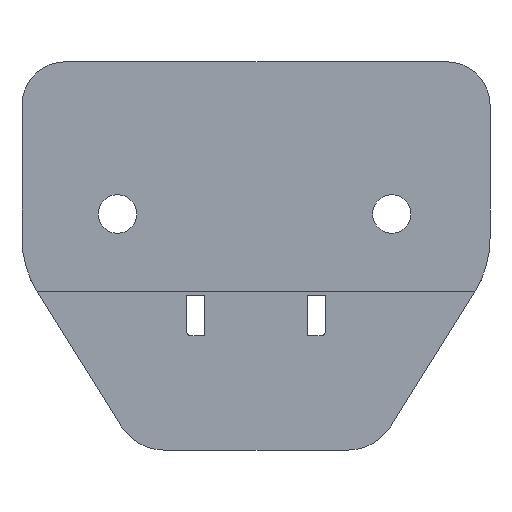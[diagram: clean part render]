
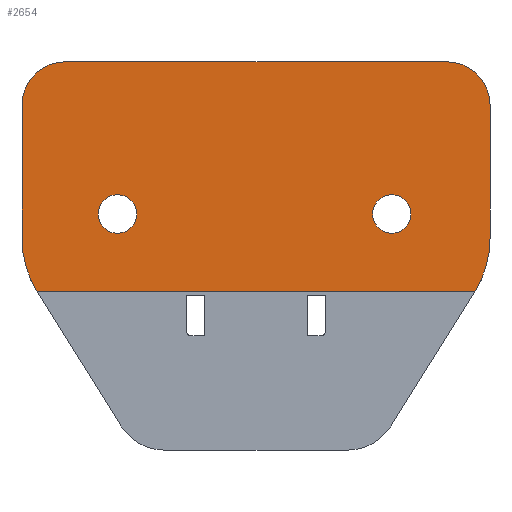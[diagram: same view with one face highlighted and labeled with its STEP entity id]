
A CAD part, front view. The second image highlights one B-rep face of the part: STEP entity #2654.
In plain terms, the highlighted planar face has unit normal (0, -1, 0).
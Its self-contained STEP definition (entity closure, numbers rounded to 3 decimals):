
#21 = CARTESIAN_POINT ( 'NONE',  ( -1.522, -12.743, -4.12 ) ) ;
#37 = ORIENTED_EDGE ( 'NONE', *, *, #1189, .F. ) ;
#41 = CARTESIAN_POINT ( 'NONE',  ( -44.122, -12.743, 2.121 ) ) ;
#49 = ORIENTED_EDGE ( 'NONE', *, *, #1998, .F. ) ;
#99 = ORIENTED_EDGE ( 'NONE', *, *, #1428, .F. ) ;
#109 = CARTESIAN_POINT ( 'NONE',  ( -51.122, -12.743, 22.68 ) ) ;
#111 = CIRCLE ( 'NONE', #886, 12. ) ;
#141 = AXIS2_PLACEMENT_3D ( 'NONE', #570, #2405, #838 ) ;
#148 = EDGE_CURVE ( 'NONE', #2503, #1064, #1219, .T. ) ;
#168 = CARTESIAN_POINT ( 'NONE',  ( -54.371, -12.743, -4.12 ) ) ;
#177 = CARTESIAN_POINT ( 'NONE',  ( -44.988, -12.743, 4.93 ) ) ;
#189 = VECTOR ( 'NONE', #2998, 1000. ) ;
#200 = VERTEX_POINT ( 'NONE', #1242 ) ;
#324 = DIRECTION ( 'NONE',  ( 1., 0., 0. ) ) ;
#344 = LINE ( 'NONE', #21, #2370 ) ;
#453 = CIRCLE ( 'NONE', #619, 2.245 ) ;
#457 = FACE_BOUND ( 'NONE', #1055, .T. ) ;
#508 = CIRCLE ( 'NONE', #989, 5. ) ;
#534 = DIRECTION ( 'NONE',  ( 0., -1., 0. ) ) ;
#570 = CARTESIAN_POINT ( 'NONE',  ( -13.522, -12.743, 2.121 ) ) ;
#611 = VERTEX_POINT ( 'NONE', #1904 ) ;
#619 = AXIS2_PLACEMENT_3D ( 'NONE', #1133, #2718, #879 ) ;
#685 = EDGE_CURVE ( 'NONE', #200, #611, #508, .T. ) ;
#711 = AXIS2_PLACEMENT_3D ( 'NONE', #2142, #2680, #1098 ) ;
#717 = ORIENTED_EDGE ( 'NONE', *, *, #2724, .T. ) ;
#723 = LINE ( 'NONE', #2799, #2744 ) ;
#755 = CARTESIAN_POINT ( 'NONE',  ( -47.234, -12.743, 4.93 ) ) ;
#774 = ORIENTED_EDGE ( 'NONE', *, *, #2651, .T. ) ;
#779 = AXIS2_PLACEMENT_3D ( 'NONE', #177, #1507, #3393 ) ;
#799 = DIRECTION ( 'NONE',  ( 0., -1., 0. ) ) ;
#838 = DIRECTION ( 'NONE',  ( 1., 0., 0. ) ) ;
#846 = LINE ( 'NONE', #1253, #2026 ) ;
#878 = EDGE_CURVE ( 'NONE', #1789, #2988, #723, .T. ) ;
#879 = DIRECTION ( 'NONE',  ( 1., 0., 0. ) ) ;
#886 = AXIS2_PLACEMENT_3D ( 'NONE', #41, #1907, #324 ) ;
#906 = ORIENTED_EDGE ( 'NONE', *, *, #148, .F. ) ;
#916 = VERTEX_POINT ( 'NONE', #2883 ) ;
#959 = CARTESIAN_POINT ( 'NONE',  ( -6.522, -12.743, 17.68 ) ) ;
#989 = AXIS2_PLACEMENT_3D ( 'NONE', #959, #2800, #1218 ) ;
#998 = CARTESIAN_POINT ( 'NONE',  ( -1.522, -12.743, 2.121 ) ) ;
#1044 = CIRCLE ( 'NONE', #1207, 2.245 ) ;
#1055 = EDGE_LOOP ( 'NONE', ( #37, #49 ) ) ;
#1064 = VERTEX_POINT ( 'NONE', #2631 ) ;
#1096 = ORIENTED_EDGE ( 'NONE', *, *, #1430, .F. ) ;
#1098 = DIRECTION ( 'NONE',  ( 0., 0., -1. ) ) ;
#1133 = CARTESIAN_POINT ( 'NONE',  ( -44.988, -12.743, 4.93 ) ) ;
#1189 = EDGE_CURVE ( 'NONE', #2725, #916, #1044, .T. ) ;
#1207 = AXIS2_PLACEMENT_3D ( 'NONE', #1487, #3100, #1236 ) ;
#1218 = DIRECTION ( 'NONE',  ( 1., 0., 0. ) ) ;
#1219 = CIRCLE ( 'NONE', #779, 2.245 ) ;
#1236 = DIRECTION ( 'NONE',  ( 1., 0., 0. ) ) ;
#1242 = CARTESIAN_POINT ( 'NONE',  ( -1.522, -12.743, 17.68 ) ) ;
#1253 = CARTESIAN_POINT ( 'NONE',  ( -1.522, -12.743, 22.68 ) ) ;
#1280 = DIRECTION ( 'NONE',  ( 1., 0., 0. ) ) ;
#1370 = CARTESIAN_POINT ( 'NONE',  ( -10.743, -12.743, 4.93 ) ) ;
#1396 = CARTESIAN_POINT ( 'NONE',  ( -56.122, -12.743, 22.68 ) ) ;
#1428 = EDGE_CURVE ( 'NONE', #1064, #2503, #453, .T. ) ;
#1430 = EDGE_CURVE ( 'NONE', #2632, #2202, #2314, .T. ) ;
#1487 = CARTESIAN_POINT ( 'NONE',  ( -12.988, -12.743, 4.93 ) ) ;
#1507 = DIRECTION ( 'NONE',  ( 0., -1., 0. ) ) ;
#1620 = ORIENTED_EDGE ( 'NONE', *, *, #1839, .T. ) ;
#1669 = EDGE_LOOP ( 'NONE', ( #1096, #717, #2557, #774, #2280, #1676, #2549, #1620 ) ) ;
#1676 = ORIENTED_EDGE ( 'NONE', *, *, #685, .T. ) ;
#1691 = FACE_BOUND ( 'NONE', #2430, .T. ) ;
#1769 = FACE_OUTER_BOUND ( 'NONE', #1669, .T. ) ;
#1789 = VERTEX_POINT ( 'NONE', #2455 ) ;
#1839 = EDGE_CURVE ( 'NONE', #2836, #2202, #2459, .T. ) ;
#1870 = EDGE_CURVE ( 'NONE', #200, #1922, #344, .T. ) ;
#1904 = CARTESIAN_POINT ( 'NONE',  ( -6.522, -12.743, 22.68 ) ) ;
#1907 = DIRECTION ( 'NONE',  ( 0., -1., 0. ) ) ;
#1922 = VERTEX_POINT ( 'NONE', #998 ) ;
#1940 = AXIS2_PLACEMENT_3D ( 'NONE', #2103, #534, #2375 ) ;
#1998 = EDGE_CURVE ( 'NONE', #916, #2725, #3397, .T. ) ;
#2026 = VECTOR ( 'NONE', #3112, 1000. ) ;
#2103 = CARTESIAN_POINT ( 'NONE',  ( -12.988, -12.743, 4.93 ) ) ;
#2142 = CARTESIAN_POINT ( 'NONE',  ( -37.688, -12.743, -2.92 ) ) ;
#2202 = VERTEX_POINT ( 'NONE', #2457 ) ;
#2280 = ORIENTED_EDGE ( 'NONE', *, *, #1870, .F. ) ;
#2314 = LINE ( 'NONE', #1396, #189 ) ;
#2370 = VECTOR ( 'NONE', #2391, 1000. ) ;
#2375 = DIRECTION ( 'NONE',  ( 1., 0., 0. ) ) ;
#2391 = DIRECTION ( 'NONE',  ( 0., 0., -1. ) ) ;
#2405 = DIRECTION ( 'NONE',  ( 0., -1., 0. ) ) ;
#2430 = EDGE_LOOP ( 'NONE', ( #99, #906 ) ) ;
#2455 = CARTESIAN_POINT ( 'NONE',  ( -3.272, -12.743, -4.12 ) ) ;
#2457 = CARTESIAN_POINT ( 'NONE',  ( -56.122, -12.743, 17.68 ) ) ;
#2459 = CIRCLE ( 'NONE', #2673, 5. ) ;
#2503 = VERTEX_POINT ( 'NONE', #755 ) ;
#2549 = ORIENTED_EDGE ( 'NONE', *, *, #2997, .F. ) ;
#2557 = ORIENTED_EDGE ( 'NONE', *, *, #878, .F. ) ;
#2631 = CARTESIAN_POINT ( 'NONE',  ( -42.743, -12.743, 4.93 ) ) ;
#2632 = VERTEX_POINT ( 'NONE', #3482 ) ;
#2651 = EDGE_CURVE ( 'NONE', #1789, #1922, #3130, .T. ) ;
#2654 = ADVANCED_FACE ( 'NONE', ( #1769, #1691, #457 ), #3221, .T. ) ;
#2673 = AXIS2_PLACEMENT_3D ( 'NONE', #2915, #799, #1280 ) ;
#2680 = DIRECTION ( 'NONE',  ( 0., -1., 0. ) ) ;
#2718 = DIRECTION ( 'NONE',  ( 0., -1., 0. ) ) ;
#2724 = EDGE_CURVE ( 'NONE', #2632, #2988, #111, .T. ) ;
#2725 = VERTEX_POINT ( 'NONE', #1370 ) ;
#2744 = VECTOR ( 'NONE', #3027, 1000. ) ;
#2799 = CARTESIAN_POINT ( 'NONE',  ( -8.24, -12.743, -4.12 ) ) ;
#2800 = DIRECTION ( 'NONE',  ( 0., -1., 0. ) ) ;
#2836 = VERTEX_POINT ( 'NONE', #109 ) ;
#2883 = CARTESIAN_POINT ( 'NONE',  ( -15.234, -12.743, 4.93 ) ) ;
#2915 = CARTESIAN_POINT ( 'NONE',  ( -51.122, -12.743, 17.68 ) ) ;
#2988 = VERTEX_POINT ( 'NONE', #168 ) ;
#2997 = EDGE_CURVE ( 'NONE', #2836, #611, #846, .T. ) ;
#2998 = DIRECTION ( 'NONE',  ( 0., 0., 1. ) ) ;
#3027 = DIRECTION ( 'NONE',  ( -1., 0., 0. ) ) ;
#3100 = DIRECTION ( 'NONE',  ( 0., -1., 0. ) ) ;
#3112 = DIRECTION ( 'NONE',  ( 1., 0., 0. ) ) ;
#3130 = CIRCLE ( 'NONE', #141, 12. ) ;
#3221 = PLANE ( 'NONE',  #711 ) ;
#3393 = DIRECTION ( 'NONE',  ( 1., 0., 0. ) ) ;
#3397 = CIRCLE ( 'NONE', #1940, 2.245 ) ;
#3482 = CARTESIAN_POINT ( 'NONE',  ( -56.122, -12.743, 2.121 ) ) ;
